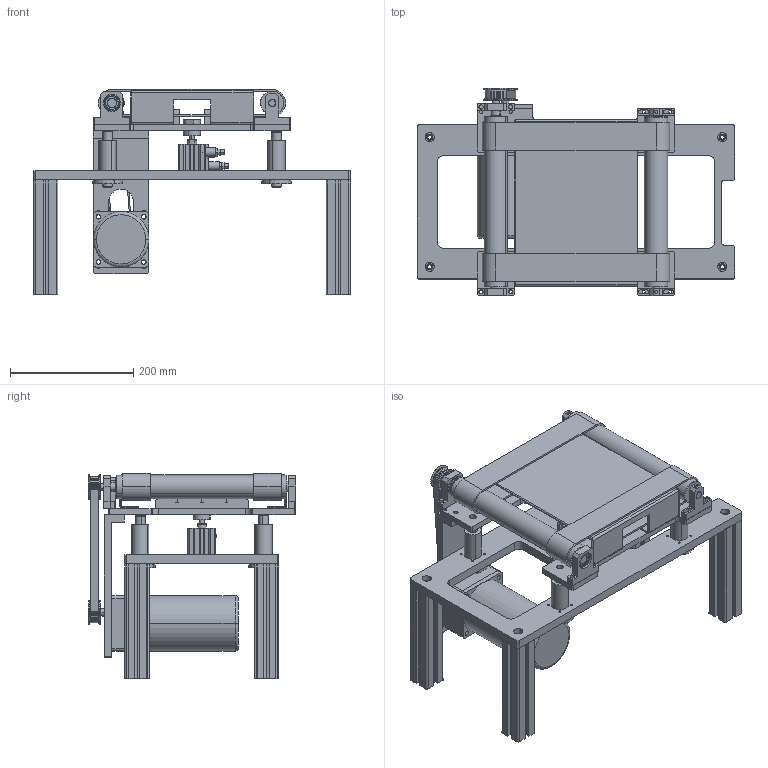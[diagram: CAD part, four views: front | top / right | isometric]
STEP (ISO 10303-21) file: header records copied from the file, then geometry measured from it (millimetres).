
FILE_DESCRIPTION(/* description */ (''),/* implementation_level */ '2;1');
FILE_NAME(/* name */ 'beltconveyor_a032_w250_l320.stp',/* time_stamp */ '2024-12-18T21:38:51+08:00',/* author */ (''),/* organization */ (''),/* preprocessor_version */ 'ST-DEVELOPER v16.7',/* originating_system */ 'SIEMENS PLM Software NX 12.0',/* authorisation */ '');
FILE_SCHEMA (('AUTOMOTIVE_DESIGN { 1 0 10303 214 3 1 1 1 }'));
Products named in the file (23): 5IK40RGNCM; 5GN5K; 皮带钣金板; 换向电机同步带1TBN200XL050周长5
08; LHFRW16双衬型; 换向台板1; 连接杆; 轴承16002; 铝型材YAE-GB4040YA-186; 换向从动滚筒; 换向滚筒座; CDQ2A32-10D-A93V0; 换向加强板; 换向输送带; 换向电机座1; 换向主动滚筒; 换向滚筒座1; 顶升导杆; AS2201F-01-06S; ATP20XL050_A_N12_ATP20XL050-A-N12; 顶升台板1; 5IK40RGNCM-5GN5K; beltconveyor_a032_w250_l320
Assembly tree (38 placements, depth 3):
  beltconveyor_a032_w250_l320
    顶升台板1
    5IK40RGNCM-5GN5K
      5GN5K
      5IK40RGNCM
    ATP20XL050_A_N12_ATP20XL050-A-N12  x2
    AS2201F-01-06S  x2
    顶升导杆  x4
    换向滚筒座1  x2
    换向主动滚筒
    换向电机座1
    换向输送带  x2
    换向加强板  x2
    CDQ2A32-10D-A93V0
    换向滚筒座  x2
    换向从动滚筒
    铝型材YAE-GB4040YA-186  x4
    轴承16002  x2
    连接杆
    换向台板1
    LHFRW16双衬型  x4
    换向电机同步带1TBN200XL050周长5
08
    皮带钣金板
Bounding box: 515 x 336 x 333 mm (x, y, z)
Volume: 5303827.8 mm3; surface area: 1324053.4 mm2
Topology: 85 solids, 85 shells, 2803 faces, 7647 edges, 5028 vertices
Faces by surface type: plane 1098, cylinder 935, extrusion 492, torus 122, cone 92, sphere 64
Full cylindrical faces by diameter (mm): 12 x2, 38 x1
Entity records: 72540 total; most frequent: CARTESIAN_POINT 21995, ORIENTED_EDGE 10990, DIRECTION 8715, EDGE_CURVE 5495, VERTEX_POINT 3626, AXIS2_PLACEMENT_3D 2909, VECTOR 2897, LINE 2405
